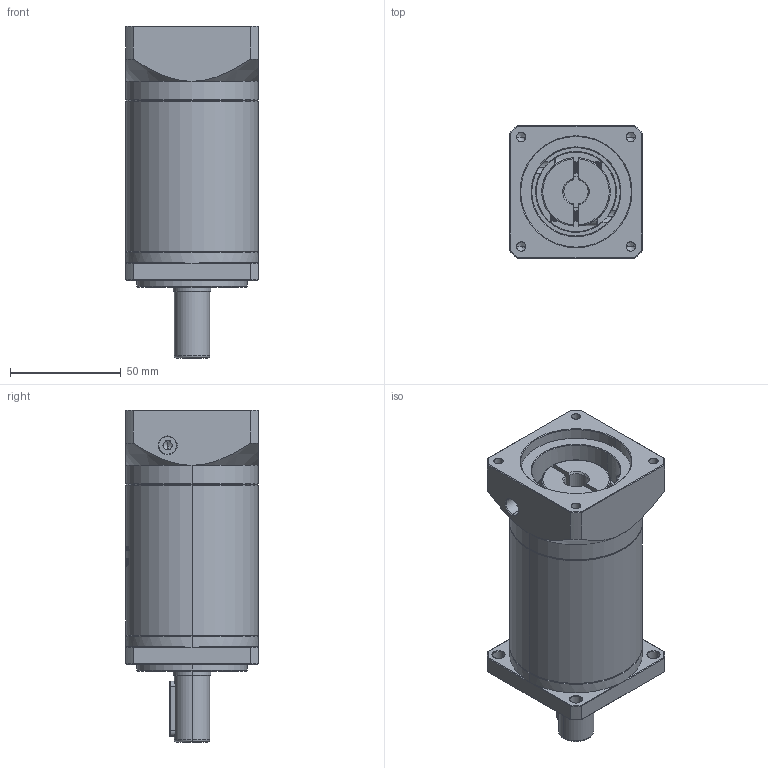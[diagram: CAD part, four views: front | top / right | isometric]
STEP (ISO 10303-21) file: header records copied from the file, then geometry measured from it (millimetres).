
FILE_DESCRIPTION (( 'STEP AP214' ), '1' );
FILE_NAME ('ZF60-D16-L3-11-50-70-M5.STEP', '2022-04-17T11:39:40', ( '' ), ( 'Microsoft' ), 'SwSTEP 2.0', 'SolidWorks 2016', '' );
FILE_SCHEMA (( 'AUTOMOTIVE_DESIGN' ));
Length unit declared in the file: millimetre
Products named in the file (1): ZF60-D16-L3-11-50-70-M5
Bounding box: 60 x 60 x 150 mm (x, y, z)
Volume: 321710.5 mm3; surface area: 50424.3 mm2
Topology: 6 solids, 6 shells, 1516 faces, 4076 edges, 2636 vertices
Faces by surface type: plane 736, bspline 287, cylinder 239, cone 236, torus 18
Entity records: 79640 total; most frequent: CARTESIAN_POINT 27984, ORIENTED_EDGE 8124, DIRECTION 6138, EDGE_CURVE 4062, VERTEX_POINT 2636, LINE 2122, VECTOR 2122, AXIS2_PLACEMENT_3D 2008
